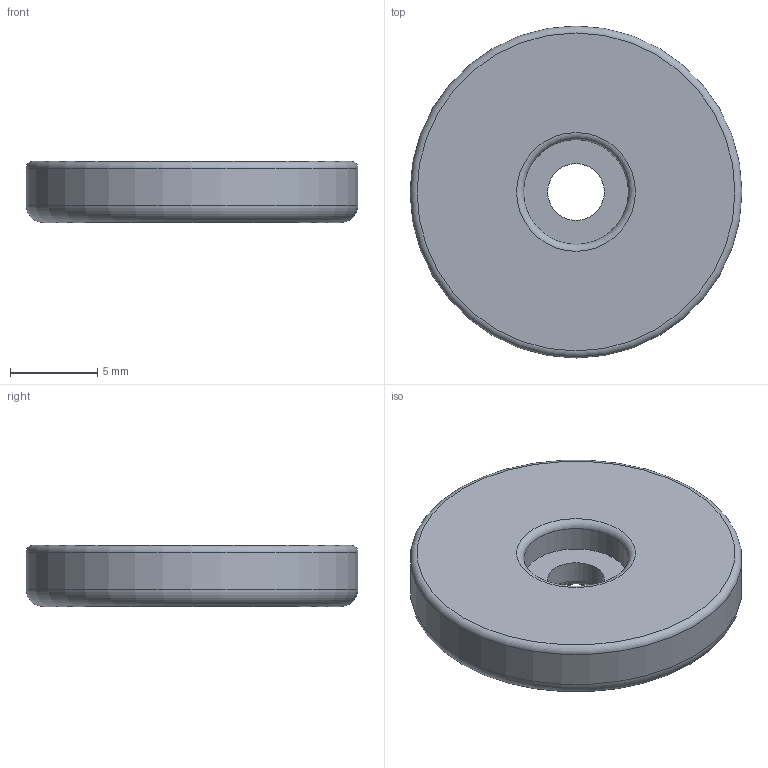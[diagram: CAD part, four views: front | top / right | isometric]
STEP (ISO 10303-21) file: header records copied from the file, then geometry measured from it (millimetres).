
FILE_DESCRIPTION(/* description */ (''),/* implementation_level */ '2;1');
FILE_NAME(/* name */ 'G:\~~Autodesk Inventor File Backup~~\Wolverine Parts by Kamel Ikhlef\My Inventor Drawn Telecine Capstan Parts\Standard 8 Capstan Sprocket Assy\STEP Files\Front_Pulley_Capstan_N8_for Hex_NO Brass Inserts_1.stp',/* time_stamp */ '2020-02-24T22:50:48+10:00',/* author */ ('bruce'),/* organization */ (''),/* preprocessor_version */ 'ST-DEVELOPER v17.2',/* originating_system */ 'Autodesk Inventor 2019',/* authorisation */ '');
FILE_SCHEMA (('AUTOMOTIVE_DESIGN { 1 0 10303 214 3 1 1 }'));
Length unit declared in the file: millimetre
Products named in the file (1): Front_Pulley_Capstan_N8_for Hex_NO Brass Inserts_1
Bounding box: 19 x 19 x 3.5 mm (x, y, z)
Volume: 911.3 mm3; surface area: 769.7 mm2
Topology: 1 solids, 1 shells, 10 faces, 21 edges, 14 vertices
Faces by surface type: torus 4, plane 3, cylinder 3
Full cylindrical faces by diameter (mm): 3.25 x1, 6 x1, 19 x1
Entity records: 328 total; most frequent: DIRECTION 61, CARTESIAN_POINT 46, ORIENTED_EDGE 42, AXIS2_PLACEMENT_3D 29, EDGE_CURVE 21, CIRCLE 18, VERTEX_POINT 14, EDGE_LOOP 13
